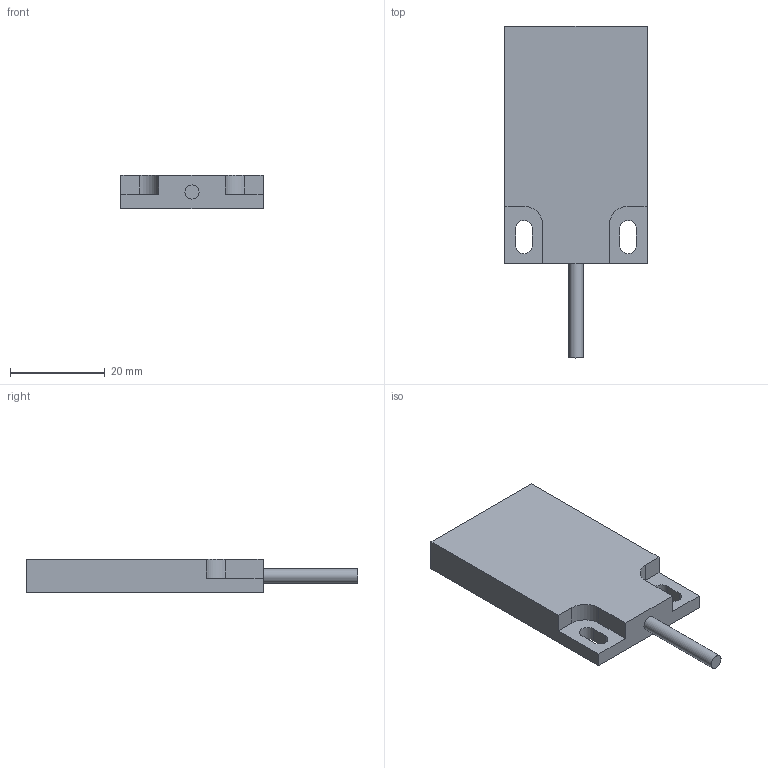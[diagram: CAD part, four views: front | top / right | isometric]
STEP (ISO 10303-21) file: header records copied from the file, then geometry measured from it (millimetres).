
FILE_DESCRIPTION(('FreeCAD Model'),'2;1');
FILE_NAME('Open CASCADE Shape Model','2024-07-25T14:56:59',( 'Thomas Reinhold'),('Eickmann Elektronik GmbH&.Co'), 'Open CASCADE STEP processor 7.6','FreeCAD','Unknown');
FILE_SCHEMA(('AUTOMOTIVE_DESIGN { 1 0 10303 214 1 1 1 1 }'));
Length unit declared in the file: millimetre
Products named in the file (1): KDCQ-3050
Bounding box: 30 x 70 x 7 mm (x, y, z)
Volume: 9766.9 mm3; surface area: 4313.5 mm2
Topology: 1 solids, 1 shells, 24 faces, 63 edges, 42 vertices
Faces by surface type: plane 17, cylinder 7
Full cylindrical faces by diameter (mm): 2.971 x1
Entity records: 771 total; most frequent: CARTESIAN_POINT 130, DIRECTION 127, ORIENTED_EDGE 126, EDGE_CURVE 63, LINE 49, VECTOR 49, VERTEX_POINT 42, AXIS2_PLACEMENT_3D 39
